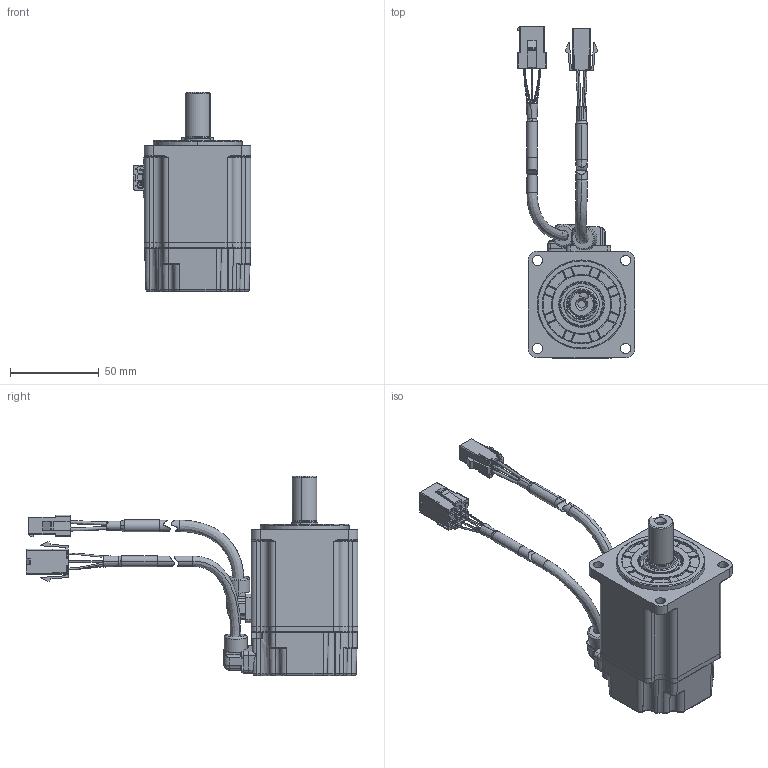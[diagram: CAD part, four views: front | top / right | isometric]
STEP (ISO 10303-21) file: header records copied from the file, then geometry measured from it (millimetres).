
FILE_DESCRIPTION (( 'STEP AP203' ), '1' );
FILE_NAME ('标准款电机（参考DM2）.STEP', '2025-04-01T07:26:48', ( 'MIDEA' ), ( 'MIDEA' ), 'SwSTEP 2.0', 'SolidWorks 2020', '' );
FILE_SCHEMA (( 'CONFIG_CONTROL_DESIGN' ));
Length unit declared in the file: millimetre
Products named in the file (1): 梓袧遴萇儂ㄗ統蕉DM2ㄘ
Bounding box: 66.26 x 186.5 x 112.1 mm (x, y, z)
Surface area: 41870.8 mm2 (no closed solid volume)
Topology: 0 solids, 25 shells, 966 faces, 3206 edges, 2199 vertices
Faces by surface type: plane 409, cylinder 246, cone 114, torus 112, bspline 71, sphere 14
Entity records: 38169 total; most frequent: CARTESIAN_POINT 10596, DIRECTION 5786, ORIENTED_EDGE 5316, EDGE_CURVE 3196, VERTEX_POINT 2199, AXIS2_PLACEMENT_3D 1965, VECTOR 1856, LINE 1856
